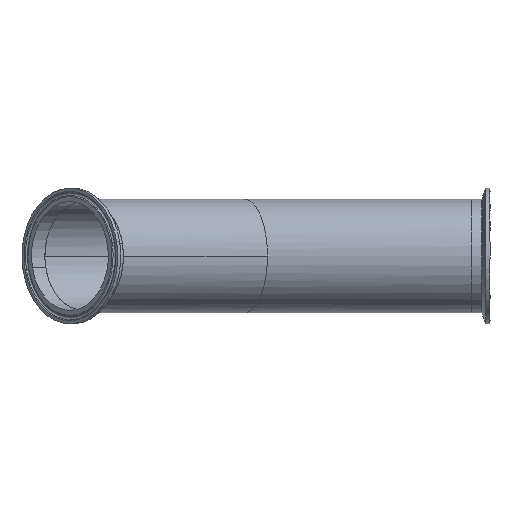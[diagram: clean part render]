
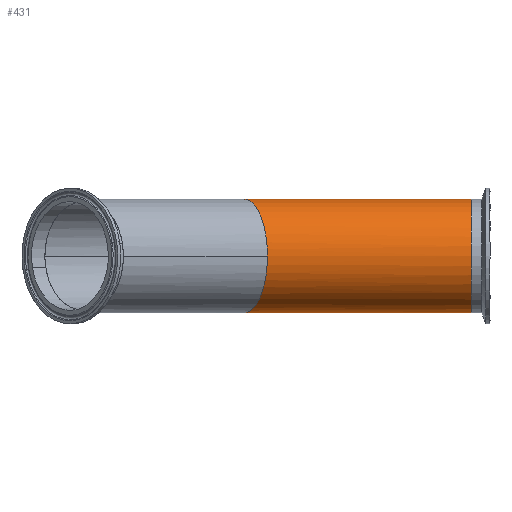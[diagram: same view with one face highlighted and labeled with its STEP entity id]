
A CAD part, left-side view. The second image highlights one B-rep face of the part: STEP entity #431.
In plain terms, the highlighted cylindrical face has radius 38.1 mm (diameter 76.2 mm), a partial arc.
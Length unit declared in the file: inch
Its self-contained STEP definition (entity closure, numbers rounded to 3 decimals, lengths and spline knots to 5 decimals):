
#25 = CARTESIAN_POINT ( 'NONE',  ( -1.5, 5.37868, 0. ) ) ;
#32 = EDGE_CURVE ( 'NONE', #994, #99, #181, .T. ) ;
#53 = CARTESIAN_POINT ( 'NONE',  ( 0., 6., 1.5 ) ) ;
#62 = DIRECTION ( 'NONE',  ( 0., -1., 0. ) ) ;
#99 = VERTEX_POINT ( 'NONE', #667 ) ;
#157 = AXIS2_PLACEMENT_3D ( 'NONE', #807, #1126, #412 ) ;
#166 = ORIENTED_EDGE ( 'NONE', *, *, #1220, .T. ) ;
#181 = CIRCLE ( 'NONE', #157, 1.5 ) ;
#222 = DIRECTION ( 'NONE',  ( 0., -1., 0. ) ) ;
#324 = EDGE_CURVE ( 'NONE', #420, #1177, #936, .T. ) ;
#406 =( BOUNDED_CURVE ( )  B_SPLINE_CURVE ( 3, ( #25, #536, #1232, #417 ),
 .UNSPECIFIED., .F., .F. ) 
 B_SPLINE_CURVE_WITH_KNOTS ( ( 4, 4 ),
 ( 0., 1.5708 ),
 .UNSPECIFIED. ) 
 CURVE ( )  GEOMETRIC_REPRESENTATION_ITEM ( )  RATIONAL_B_SPLINE_CURVE ( ( 1., 0.805, 0.805, 1. ) ) 
 REPRESENTATION_ITEM ( '' )  );
#412 = DIRECTION ( 'NONE',  ( 0., 0., 1. ) ) ;
#417 = CARTESIAN_POINT ( 'NONE',  ( 0., 6., -1.5 ) ) ;
#420 = VERTEX_POINT ( 'NONE', #53 ) ;
#428 = CARTESIAN_POINT ( 'NONE',  ( -1.5, 5.37868, 0. ) ) ;
#431 = ADVANCED_FACE ( 'NONE', ( #834 ), #433, .T. ) ;
#433 = CYLINDRICAL_SURFACE ( 'NONE', #864, 1.5 ) ;
#473 = ORIENTED_EDGE ( 'NONE', *, *, #1277, .T. ) ;
#480 = DIRECTION ( 'NONE',  ( 0., -1., 0. ) ) ;
#533 = CARTESIAN_POINT ( 'NONE',  ( 0., 0., -1.5 ) ) ;
#536 = CARTESIAN_POINT ( 'NONE',  ( -1.5, 5.37868, -0.87868 ) ) ;
#542 = CARTESIAN_POINT ( 'NONE',  ( 0., 6., -1.5 ) ) ;
#624 = EDGE_CURVE ( 'NONE', #420, #99, #680, .T. ) ;
#656 = DIRECTION ( 'NONE',  ( 0., 0., -1. ) ) ;
#663 = CARTESIAN_POINT ( 'NONE',  ( -1.5, 5.37868, 0. ) ) ;
#667 = CARTESIAN_POINT ( 'NONE',  ( 0., 0., 1.5 ) ) ;
#680 = LINE ( 'NONE', #1078, #1082 ) ;
#725 = ORIENTED_EDGE ( 'NONE', *, *, #624, .F. ) ;
#807 = CARTESIAN_POINT ( 'NONE',  ( 0., 0., 0. ) ) ;
#834 = FACE_OUTER_BOUND ( 'NONE', #874, .T. ) ;
#854 = CARTESIAN_POINT ( 'NONE',  ( 0., 6., 0. ) ) ;
#855 = VERTEX_POINT ( 'NONE', #1109 ) ;
#864 = AXIS2_PLACEMENT_3D ( 'NONE', #854, #62, #656 ) ;
#874 = EDGE_LOOP ( 'NONE', ( #725, #1292, #473, #166, #1209 ) ) ;
#936 =( BOUNDED_CURVE ( )  B_SPLINE_CURVE ( 3, ( #1027, #1125, #1022, #428 ),
 .UNSPECIFIED., .F., .F. ) 
 B_SPLINE_CURVE_WITH_KNOTS ( ( 4, 4 ),
 ( 4.71239, 6.28319 ),
 .UNSPECIFIED. ) 
 CURVE ( )  GEOMETRIC_REPRESENTATION_ITEM ( )  RATIONAL_B_SPLINE_CURVE ( ( 1., 0.805, 0.805, 1. ) ) 
 REPRESENTATION_ITEM ( '' )  );
#941 = VECTOR ( 'NONE', #222, 39.37008 ) ;
#994 = VERTEX_POINT ( 'NONE', #533 ) ;
#1022 = CARTESIAN_POINT ( 'NONE',  ( -1.5, 5.37868, 0.87868 ) ) ;
#1027 = CARTESIAN_POINT ( 'NONE',  ( 0., 6., 1.5 ) ) ;
#1078 = CARTESIAN_POINT ( 'NONE',  ( 0., 6., 1.5 ) ) ;
#1082 = VECTOR ( 'NONE', #480, 39.37008 ) ;
#1109 = CARTESIAN_POINT ( 'NONE',  ( 0., 6., -1.5 ) ) ;
#1124 = LINE ( 'NONE', #542, #941 ) ;
#1125 = CARTESIAN_POINT ( 'NONE',  ( -0.87868, 5.63604, 1.5 ) ) ;
#1126 = DIRECTION ( 'NONE',  ( 0., 1., 0. ) ) ;
#1177 = VERTEX_POINT ( 'NONE', #663 ) ;
#1209 = ORIENTED_EDGE ( 'NONE', *, *, #32, .T. ) ;
#1220 = EDGE_CURVE ( 'NONE', #855, #994, #1124, .T. ) ;
#1232 = CARTESIAN_POINT ( 'NONE',  ( -0.87868, 5.63604, -1.5 ) ) ;
#1277 = EDGE_CURVE ( 'NONE', #1177, #855, #406, .T. ) ;
#1292 = ORIENTED_EDGE ( 'NONE', *, *, #324, .T. ) ;
